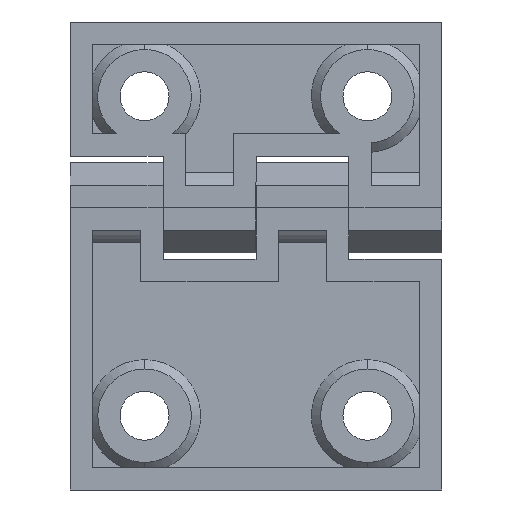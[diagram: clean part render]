
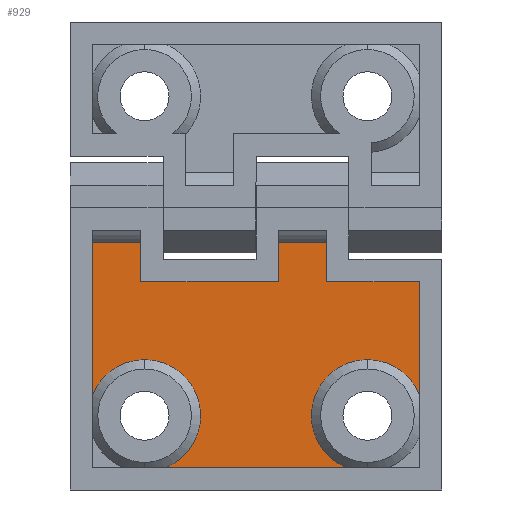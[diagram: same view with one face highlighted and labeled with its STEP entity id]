
A CAD part, front view. The second image highlights one B-rep face of the part: STEP entity #929.
In plain terms, the highlighted planar face has unit normal (0, -1, 0).
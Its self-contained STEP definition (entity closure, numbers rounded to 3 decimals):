
#4 = DIRECTION ( 'NONE',  ( 0., -1., 0. ) ) ;
#7 = AXIS2_PLACEMENT_3D ( 'NONE', #1065, #3240, #4687 ) ;
#8 = EDGE_CURVE ( 'NONE', #3807, #3045, #2063, .T. ) ;
#22 = CIRCLE ( 'NONE', #4552, 7.543 ) ;
#27 = DIRECTION ( 'NONE',  ( 0., 0., -1. ) ) ;
#39 = EDGE_CURVE ( 'NONE', #2450, #588, #235, .T. ) ;
#69 = EDGE_CURVE ( 'NONE', #559, #1142, #2242, .T. ) ;
#130 = EDGE_CURVE ( 'NONE', #3133, #559, #771, .T. ) ;
#189 = EDGE_CURVE ( 'NONE', #1213, #774, #2847, .T. ) ;
#200 = ORIENTED_EDGE ( 'NONE', *, *, #358, .F. ) ;
#202 = CARTESIAN_POINT ( 'NONE',  ( 3., 2.5, -4.684 ) ) ;
#212 = CARTESIAN_POINT ( 'NONE',  ( 3., 2.5, -6.062 ) ) ;
#232 = ORIENTED_EDGE ( 'NONE', *, *, #3808, .F. ) ;
#235 = CIRCLE ( 'NONE', #4607, 7.543 ) ;
#271 = LINE ( 'NONE', #3287, #4699 ) ;
#358 = EDGE_CURVE ( 'NONE', #1891, #774, #3746, .T. ) ;
#375 = CARTESIAN_POINT ( 'NONE',  ( 3., 2.5, -9.938 ) ) ;
#380 = DIRECTION ( 'NONE',  ( 0., 0., -1. ) ) ;
#483 = DIRECTION ( 'NONE',  ( 0., 1., 0. ) ) ;
#559 = VERTEX_POINT ( 'NONE', #3275 ) ;
#577 = CARTESIAN_POINT ( 'NONE',  ( 22., 2.5, -25.191 ) ) ;
#588 = VERTEX_POINT ( 'NONE', #2195 ) ;
#607 = CARTESIAN_POINT ( 'NONE',  ( 22., 2.5, -6.062 ) ) ;
#667 = DIRECTION ( 'NONE',  ( 1., 0., 0. ) ) ;
#758 = CARTESIAN_POINT ( 'NONE',  ( -22., 2.5, -4.684 ) ) ;
#771 = CIRCLE ( 'NONE', #7, 7.543 ) ;
#774 = VERTEX_POINT ( 'NONE', #3345 ) ;
#856 = EDGE_CURVE ( 'NONE', #1902, #1213, #271, .T. ) ;
#873 = DIRECTION ( 'NONE',  ( 0., 0., 1. ) ) ;
#898 = EDGE_CURVE ( 'NONE', #3563, #3133, #1730, .T. ) ;
#902 = ORIENTED_EDGE ( 'NONE', *, *, #130, .T. ) ;
#909 = ORIENTED_EDGE ( 'NONE', *, *, #4582, .F. ) ;
#929 = ADVANCED_FACE ( 'NONE', ( #3014 ), #3039, .T. ) ;
#1019 = VECTOR ( 'NONE', #4135, 1000. ) ;
#1059 = CARTESIAN_POINT ( 'NONE',  ( -12.191, 2.5, -35. ) ) ;
#1065 = CARTESIAN_POINT ( 'NONE',  ( 15., 2.5, -28. ) ) ;
#1072 = VECTOR ( 'NONE', #3925, 1000. ) ;
#1142 = VERTEX_POINT ( 'NONE', #577 ) ;
#1213 = VERTEX_POINT ( 'NONE', #1822 ) ;
#1246 = AXIS2_PLACEMENT_3D ( 'NONE', #4472, #4, #27 ) ;
#1327 = DIRECTION ( 'NONE',  ( 0., 0., -1. ) ) ;
#1341 = LINE ( 'NONE', #607, #3659 ) ;
#1343 = EDGE_CURVE ( 'NONE', #588, #3563, #22, .T. ) ;
#1363 = CARTESIAN_POINT ( 'NONE',  ( 25., 2.5, -35. ) ) ;
#1364 = DIRECTION ( 'NONE',  ( 0., 0., 1. ) ) ;
#1459 = CARTESIAN_POINT ( 'NONE',  ( 12.191, 2.5, -35. ) ) ;
#1464 = DIRECTION ( 'NONE',  ( 1., 0., 0. ) ) ;
#1508 = ORIENTED_EDGE ( 'NONE', *, *, #1343, .T. ) ;
#1539 = ORIENTED_EDGE ( 'NONE', *, *, #856, .T. ) ;
#1634 = CARTESIAN_POINT ( 'NONE',  ( 15., 2.5, -28. ) ) ;
#1730 = LINE ( 'NONE', #1363, #4009 ) ;
#1767 = LINE ( 'NONE', #2451, #1929 ) ;
#1785 = EDGE_LOOP ( 'NONE', ( #4074, #902, #4558, #2218, #2514, #3883, #909, #3509, #1539, #4723, #200, #232, #2992, #1508 ) ) ;
#1805 = DIRECTION ( 'NONE',  ( 0., 0., 1. ) ) ;
#1822 = CARTESIAN_POINT ( 'NONE',  ( -15.5, 2.5, -9.938 ) ) ;
#1891 = VERTEX_POINT ( 'NONE', #758 ) ;
#1902 = VERTEX_POINT ( 'NONE', #375 ) ;
#1929 = VECTOR ( 'NONE', #667, 1000. ) ;
#1936 = VECTOR ( 'NONE', #873, 1000. ) ;
#1937 = CARTESIAN_POINT ( 'NONE',  ( 25., 2.5, -4.684 ) ) ;
#1991 = CARTESIAN_POINT ( 'NONE',  ( -15., 2.5, -28. ) ) ;
#2063 = LINE ( 'NONE', #3526, #1936 ) ;
#2169 = AXIS2_PLACEMENT_3D ( 'NONE', #1634, #4553, #4190 ) ;
#2195 = CARTESIAN_POINT ( 'NONE',  ( -15., 2.5, -20.457 ) ) ;
#2201 = CARTESIAN_POINT ( 'NONE',  ( -15., 2.5, -28. ) ) ;
#2218 = ORIENTED_EDGE ( 'NONE', *, *, #2536, .T. ) ;
#2242 = CIRCLE ( 'NONE', #2169, 7.543 ) ;
#2288 = DIRECTION ( 'NONE',  ( 0., 1., 0. ) ) ;
#2420 = LINE ( 'NONE', #4236, #1072 ) ;
#2450 = VERTEX_POINT ( 'NONE', #3022 ) ;
#2451 = CARTESIAN_POINT ( 'NONE',  ( 25., 2.5, -4.684 ) ) ;
#2514 = ORIENTED_EDGE ( 'NONE', *, *, #3917, .T. ) ;
#2536 = EDGE_CURVE ( 'NONE', #1142, #2969, #1341, .T. ) ;
#2615 = VERTEX_POINT ( 'NONE', #202 ) ;
#2675 = LINE ( 'NONE', #3783, #1019 ) ;
#2847 = LINE ( 'NONE', #4306, #3468 ) ;
#2920 = VECTOR ( 'NONE', #1327, 1000. ) ;
#2969 = VERTEX_POINT ( 'NONE', #4571 ) ;
#2992 = ORIENTED_EDGE ( 'NONE', *, *, #39, .T. ) ;
#3014 = FACE_OUTER_BOUND ( 'NONE', #1785, .T. ) ;
#3022 = CARTESIAN_POINT ( 'NONE',  ( -22., 2.5, -25.191 ) ) ;
#3039 = PLANE ( 'NONE',  #1246 ) ;
#3045 = VERTEX_POINT ( 'NONE', #4331 ) ;
#3133 = VERTEX_POINT ( 'NONE', #1459 ) ;
#3190 = DIRECTION ( 'NONE',  ( 1., 0., 0. ) ) ;
#3240 = DIRECTION ( 'NONE',  ( 0., 1., 0. ) ) ;
#3275 = CARTESIAN_POINT ( 'NONE',  ( 15., 2.5, -20.457 ) ) ;
#3287 = CARTESIAN_POINT ( 'NONE',  ( 25., 2.5, -9.938 ) ) ;
#3345 = CARTESIAN_POINT ( 'NONE',  ( -15.5, 2.5, -4.684 ) ) ;
#3468 = VECTOR ( 'NONE', #1805, 1000. ) ;
#3509 = ORIENTED_EDGE ( 'NONE', *, *, #4501, .T. ) ;
#3526 = CARTESIAN_POINT ( 'NONE',  ( 9.5, 2.5, -6.062 ) ) ;
#3563 = VERTEX_POINT ( 'NONE', #1059 ) ;
#3659 = VECTOR ( 'NONE', #1364, 1000. ) ;
#3746 = LINE ( 'NONE', #1937, #4610 ) ;
#3783 = CARTESIAN_POINT ( 'NONE',  ( -22., 2.5, -6.062 ) ) ;
#3807 = VERTEX_POINT ( 'NONE', #4166 ) ;
#3808 = EDGE_CURVE ( 'NONE', #2450, #1891, #2675, .T. ) ;
#3883 = ORIENTED_EDGE ( 'NONE', *, *, #8, .T. ) ;
#3917 = EDGE_CURVE ( 'NONE', #2969, #3807, #2420, .T. ) ;
#3925 = DIRECTION ( 'NONE',  ( -1., 0., 0. ) ) ;
#4009 = VECTOR ( 'NONE', #3190, 1000. ) ;
#4074 = ORIENTED_EDGE ( 'NONE', *, *, #898, .T. ) ;
#4135 = DIRECTION ( 'NONE',  ( 0., 0., 1. ) ) ;
#4166 = CARTESIAN_POINT ( 'NONE',  ( 9.5, 2.5, -9.938 ) ) ;
#4190 = DIRECTION ( 'NONE',  ( 0., 0., -1. ) ) ;
#4236 = CARTESIAN_POINT ( 'NONE',  ( 25., 2.5, -9.938 ) ) ;
#4270 = LINE ( 'NONE', #212, #2920 ) ;
#4306 = CARTESIAN_POINT ( 'NONE',  ( -15.5, 2.5, -6.062 ) ) ;
#4331 = CARTESIAN_POINT ( 'NONE',  ( 9.5, 2.5, -4.684 ) ) ;
#4472 = CARTESIAN_POINT ( 'NONE',  ( 25., 2.5, -6.062 ) ) ;
#4501 = EDGE_CURVE ( 'NONE', #2615, #1902, #4270, .T. ) ;
#4519 = DIRECTION ( 'NONE',  ( 0., 0., -1. ) ) ;
#4552 = AXIS2_PLACEMENT_3D ( 'NONE', #2201, #2288, #380 ) ;
#4553 = DIRECTION ( 'NONE',  ( 0., 1., 0. ) ) ;
#4558 = ORIENTED_EDGE ( 'NONE', *, *, #69, .T. ) ;
#4571 = CARTESIAN_POINT ( 'NONE',  ( 22., 2.5, -9.938 ) ) ;
#4582 = EDGE_CURVE ( 'NONE', #2615, #3045, #1767, .T. ) ;
#4607 = AXIS2_PLACEMENT_3D ( 'NONE', #1991, #483, #4519 ) ;
#4610 = VECTOR ( 'NONE', #1464, 1000. ) ;
#4687 = DIRECTION ( 'NONE',  ( 0., 0., -1. ) ) ;
#4699 = VECTOR ( 'NONE', #4739, 1000. ) ;
#4723 = ORIENTED_EDGE ( 'NONE', *, *, #189, .T. ) ;
#4739 = DIRECTION ( 'NONE',  ( -1., 0., 0. ) ) ;
